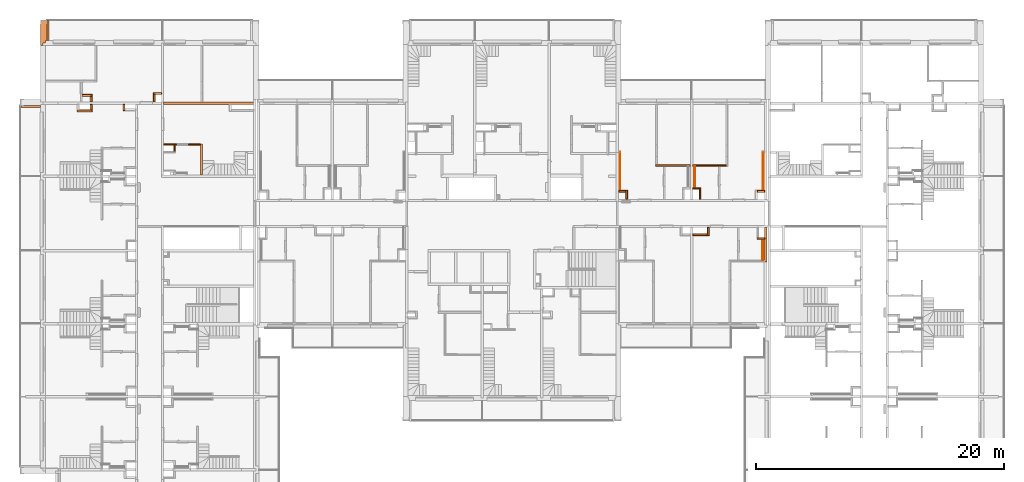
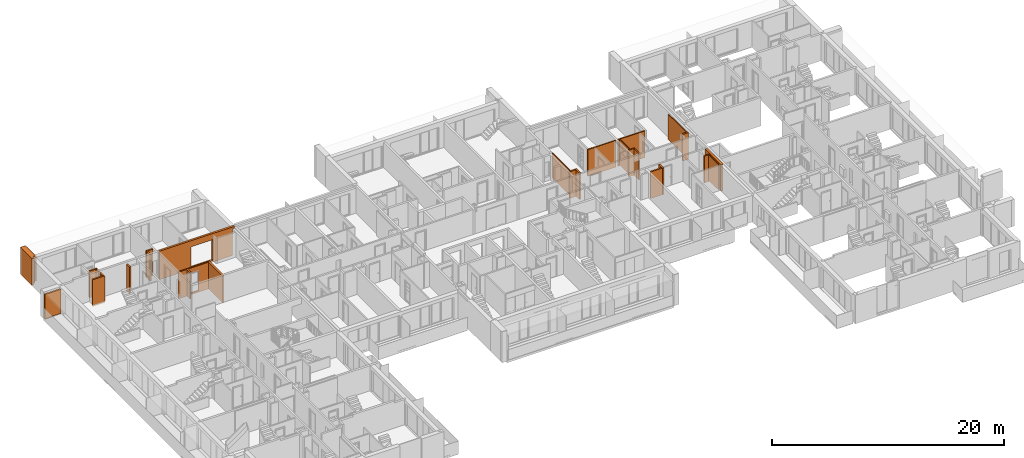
# One storey, part 55 of 61: 29 proxies, 3 openings.
"""IFC2X3 building model written with IfcOpenShell, lengths in millimetres."""

from ifc_helpers import new_model, entity, si_unit, converted_unit, derived_unit, money_unit, direction, frame, origin_with_axes, origin_2d_with_axis, place, context, subcontext, project, spatial, rectangle, extrude, faceted_brep, material, material_list, type_object, element, save


model = new_model("IFC2X3")

# Units and contexts
model_context = context("Model", 3, precision=0.01, world=origin_with_axes(), true_north=direction((0.34421633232, 0.938890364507)))
body_context = subcontext(model_context, "Body", "Model", "MODEL_VIEW")
ifc_project = project(units=[si_unit("LENGTHUNIT", "METRE", prefix="MILLI"), si_unit("AREAUNIT", "SQUARE_METRE"), si_unit("VOLUMEUNIT", "CUBIC_METRE"), converted_unit("PLANEANGLEUNIT", "DEGREE", entity("IfcPlaneAngleMeasure", 0.0174532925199), si_unit("PLANEANGLEUNIT", "RADIAN"), dimensions=[0, 0, 0, 0, 0, 0, 0]), si_unit("SOLIDANGLEUNIT", "STERADIAN"), money_unit("USD"), converted_unit("TIMEUNIT", "Year", entity("IfcTimeMeasure", 31556926.0), si_unit("TIMEUNIT", "SECOND"), dimensions=[0, 0, 1, 0, 0, 0, 0]), si_unit("MASSUNIT", "GRAM", prefix="KILO"), si_unit("THERMODYNAMICTEMPERATUREUNIT", "DEGREE_CELSIUS"), si_unit("LUMINOUSINTENSITYUNIT", "LUMEN"), si_unit("ENERGYUNIT", "JOULE", prefix="MEGA"), derived_unit("THERMALCONDUCTANCEUNIT", [(si_unit("POWERUNIT", "WATT"), 1), (si_unit("LENGTHUNIT", "METRE"), -1), (si_unit("THERMODYNAMICTEMPERATUREUNIT", "KELVIN"), -1)]), derived_unit("SPECIFICHEATCAPACITYUNIT", [(si_unit("ENERGYUNIT", "JOULE"), 1), (si_unit("MASSUNIT", "GRAM", prefix="KILO"), -1), (si_unit("THERMODYNAMICTEMPERATUREUNIT", "KELVIN"), -1)]), derived_unit("MASSDENSITYUNIT", [(si_unit("MASSUNIT", "GRAM", prefix="KILO"), 1), (si_unit("VOLUMEUNIT", "CUBIC_METRE"), -1)])], contexts=[model_context])

# Site, building, storey
site_placement = place(None, origin_with_axes())
site = spatial("IfcSite", under=ifc_project, at=site_placement, Name="USTRONIE MORSKIE", CompositionType="ELEMENT")
building_placement = place(site_placement, origin_with_axes())
building = spatial("IfcBuilding", under=site, at=building_placement, Name="Budynek", CompositionType="ELEMENT")
storey_placement = place(building_placement, frame((0.0, 0.0, 13000.0), z_axis=(0.0, 0.0, 1.0), x_axis=(1.0, 0.0, 0.0)))
storey = spatial("IfcBuildingStorey", under=building, at=storey_placement, Name="PIĘTRO 4", CompositionType="ELEMENT", Elevation=13000.0)

# Proxies
ifc_material_1 = material(Name="Bloczki silikatowe")
building_element_proxy_type_1 = type_object("IfcBuildingElementProxyType", Name="Bloczki silikatowe 120", PredefinedType="NOTDEFINED")
proxy_1_placement = place(storey_placement, frame((402317.920919, 737751.199937, -160.0), z_axis=(0.0, 0.0, 1.0), x_axis=(1.0, 0.0, 0.0)))
element("IfcBuildingElementProxy", 1, at=proxy_1_placement, inside=storey, type_object=building_element_proxy_type_1, material=ifc_material_1, Name="SW-04", context=body_context, shape_type="Brep", body=[
    faceted_brep([(720.0, 120.0, 0.0), (720.0, 0.0, 0.0), (100.0, 0.0, 0.0), (100.0, 120.0, 0.0), (720.0, 120.0, 2800.0), (720.0, 0.0, 2800.0), (100.0, 0.0, 2800.0), (100.0, 120.0, 2800.0)], [[[0, 1, 2, 3]], [[1, 0, 4, 5]], [[1, 5, 6, 2]], [[7, 3, 2, 6]], [[4, 0, 3, 7]], [[5, 4, 7, 6]]]),
])
proxy_2_placement = place(storey_placement, frame((402917.920919, 737751.199937, -160.0), z_axis=(0.0, 0.0, 1.0), x_axis=(0.0, -1.0, 0.0)))
element("IfcBuildingElementProxy", 2, at=proxy_2_placement, inside=storey, type_object=building_element_proxy_type_1, material=ifc_material_1, Name="SW-04", context=body_context, shape_type="Brep", body=[
    faceted_brep([(820.00090117, 120.0, 0.0), (820.00090117, 0.0, 0.0), (0.0, 0.0, 0.0), (0.0, 120.0, 0.0), (820.00090117, 120.0, 2800.0), (820.00090117, 0.0, 2800.0), (0.0, 0.0, 2800.0), (0.0, 120.0, 2800.0)], [[[0, 1, 2, 3]], [[1, 0, 4, 5]], [[1, 5, 6, 2]], [[7, 3, 2, 6]], [[4, 0, 3, 7]], [[5, 4, 7, 6]]]),
])

# Proxy, opening
proxy_3_placement = place(storey_placement, frame((359617.920919, 741361.180377, -160.0), z_axis=(0.0, 0.0, 1.0), x_axis=(1.0, 0.0, 0.0)))
proxy_3 = element("IfcBuildingElementProxy", 3, at=proxy_3_placement, inside=storey, type_object=building_element_proxy_type_1, material=ifc_material_1, Name="SW-04", context=body_context, shape_type="Brep", body=[
    faceted_brep([(3049.9699557, -59.9999999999, 2800.0), (3049.9699557, 59.9999999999, 2800.0), (1020.00179464, 59.9999999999, 2800.0), (1020.00179464, -59.9999999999, 2800.0), (3049.9699557, -59.9999999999, 0.0), (3049.9699557, 59.9999999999, 0.0), (1020.00179464, 59.9999999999, 0.0), (1020.00179464, -59.9999999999, 0.0)], [[[0, 1, 2, 3]], [[1, 0, 4, 5]], [[1, 5, 6, 2]], [[7, 3, 2, 6]], [[4, 0, 3, 7]], [[5, 4, 7, 6]]]),
    faceted_brep([(900.001794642, -59.9999999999, 2800.0), (900.001794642, 59.9999999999, 2800.0), (80.0, 59.9999999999, 2800.0), (80.0, -59.9999999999, 2800.0), (900.001794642, -59.9999999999, 0.0), (900.001794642, 59.9999999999, 0.0), (80.0, 59.9999999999, 0.0), (80.0, -59.9999999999, 0.0)], [[[0, 1, 2, 3]], [[1, 0, 4, 5]], [[1, 5, 6, 2]], [[7, 3, 2, 6]], [[4, 0, 3, 7]], [[5, 4, 7, 6]]]),
])
opening_1_placement = place(proxy_3_placement, frame((1600.00179464, 0.0, 160.0), z_axis=(0.0, 0.0, 1.0), x_axis=(1.0, 0.0, 0.0)))
element("IfcOpeningElement", 4, at=opening_1_placement, cuts=proxy_3, Name="Dw.4", context=body_context, shape_type="SweptSolid", body=[
    extrude(rectangle(XDim=920.0, YDim=2070.0, at=origin_2d_with_axis()), frame((0.0, -120.0, 1035.0), z_axis=(0.0, -1.0, 0.0), x_axis=(-1.0, 0.0, 0.0)), (0.0, 0.0, -1.0), 360.0),
    extrude(rectangle(XDim=994.0, YDim=2177.0, at=origin_2d_with_axis()), frame((0.0, -59.9999999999, 1088.5), z_axis=(0.0, -1.0, 0.0), x_axis=(-1.0, 0.0, 0.0)), (0.0, 0.0, 1.0), 120.0),
    extrude(rectangle(XDim=994.0, YDim=2177.0, at=origin_2d_with_axis()), frame((0.0, 60.0000000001, 1088.5), z_axis=(0.0, 1.0, 0.0), x_axis=(-1.0, 0.0, 0.0)), (0.0, 0.0, 1.0), 120.0),
])

# Proxies
proxy_4_placement = place(storey_placement, frame((408317.920919, 733851.183064, -160.0), z_axis=(0.0, 0.0, 1.0), x_axis=(-0.999999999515, 3.11484020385e-05, 0.0)))
element("IfcBuildingElementProxy", 5, at=proxy_4_placement, inside=storey, type_object=building_element_proxy_type_1, material=ifc_material_1, Name="SW-04", context=body_context, shape_type="Brep", body=[
    faceted_brep([(719.979557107, -1.13686837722e-10, 2800.0), (719.972081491, 120.0, 2800.0), (99.9962622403, 120.0, 2800.0), (100.000000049, -1.13686837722e-10, 2800.0), (719.979557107, -1.13686837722e-10, 0.0), (719.972081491, 120.0, 0.0), (99.9962622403, 120.0, 0.0), (100.000000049, -1.13686837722e-10, 0.0)], [[[0, 1, 2, 3]], [[1, 0, 4, 5]], [[1, 5, 6, 2]], [[7, 3, 2, 6]], [[4, 0, 3, 7]], [[5, 4, 7, 6]]]),
])
proxy_5_placement = place(storey_placement, frame((402317.920919, 739651.199937, -160.0), z_axis=(0.0, 0.0, 1.0), x_axis=(1.0, 0.0, 0.0)))
element("IfcBuildingElementProxy", 6, at=proxy_5_placement, inside=storey, type_object=building_element_proxy_type_1, material=ifc_material_1, Name="SW-04", context=body_context, shape_type="Brep", body=[
    faceted_brep([(2790.00713284, 59.9999999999, 0.0), (2790.00713284, -59.9999999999, 0.0), (100.0, -59.9999999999, 0.0), (100.0, 59.9999999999, 0.0), (2790.00713284, 59.9999999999, 2800.0), (2790.00713284, -59.9999999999, 2800.0), (100.0, -59.9999999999, 2800.0), (100.0, 59.9999999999, 2800.0)], [[[0, 1, 2, 3]], [[1, 0, 4, 5]], [[1, 5, 6, 2]], [[7, 3, 2, 6]], [[4, 0, 3, 7]], [[5, 4, 7, 6]]]),
])
proxy_6_placement = place(storey_placement, frame((399467.913786, 739651.199937, -160.0), z_axis=(0.0, 0.0, 1.0), x_axis=(1.0, 0.0, 0.0)))
element("IfcBuildingElementProxy", 7, at=proxy_6_placement, inside=storey, type_object=building_element_proxy_type_1, material=ifc_material_1, Name="SW-04", context=body_context, shape_type="Brep", body=[
    faceted_brep([(-60.0, -59.9999999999, 2800.0), (2750.00713284, -59.9999999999, 2800.0), (2750.00713284, 59.9999999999, 2800.0), (-60.0, 59.9999999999, 2800.0), (-60.0, -59.9999999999, 0.0), (2750.00713284, -59.9999999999, 0.0), (2750.00713284, 59.9999999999, 0.0), (-60.0, 59.9999999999, 0.0)], [[[0, 1, 2, 3]], [[4, 5, 1, 0]], [[5, 6, 2, 1]], [[3, 2, 6, 7]], [[3, 7, 4, 0]], [[7, 6, 5, 4]]]),
])
proxy_7_placement = place(storey_placement, frame((360577.922714, 741361.180377, -160.0), z_axis=(0.0, 0.0, 1.0), x_axis=(0.0, -1.0, 0.0)))
element("IfcBuildingElementProxy", 8, at=proxy_7_placement, inside=storey, type_object=building_element_proxy_type_1, material=ifc_material_1, Name="SW-04", context=body_context, shape_type="Brep", body=[
    faceted_brep([(560.00090117, 60.0, 0.0), (560.00090117, -60.0, 0.0), (-59.9999999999, -60.0, 0.0), (-59.9999999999, 60.0, 0.0), (560.00090117, 60.0, 2800.0), (560.00090117, -60.0, 2800.0), (-59.9999999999, -60.0, 2800.0), (-59.9999999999, 60.0, 2800.0)], [[[0, 1, 2, 3]], [[1, 0, 4, 5]], [[1, 5, 6, 2]], [[7, 3, 2, 6]], [[4, 0, 3, 7]], [[5, 4, 7, 6]]]),
])
building_element_proxy_type_2 = type_object("IfcBuildingElementProxyType", Name="Bloczki silikatowe 180", PredefinedType="NOTDEFINED")
proxy_8_placement = place(storey_placement, frame((362757.905875, 741361.180377, -160.0), z_axis=(0.0, 0.0, 1.0), x_axis=(0.0, -1.0, 0.0)))
element("IfcBuildingElementProxy", 9, at=proxy_8_placement, inside=storey, type_object=building_element_proxy_type_2, material=ifc_material_1, Name="Œciana-007", context=body_context, shape_type="Brep", body=[
    faceted_brep([(2459.98134114, -90.015, 2800.0), (2459.98134114, 90.015, 2800.0), (-59.9999999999, 90.015, 2800.0), (-59.9999999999, -90.015, 2800.0), (2459.98134114, -90.015, 0.0), (2459.98134114, 90.015, 0.0), (-59.9999999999, 90.015, 0.0), (-59.9999999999, -90.015, 0.0)], [[[0, 1, 2, 3]], [[1, 0, 4, 5]], [[1, 5, 6, 2]], [[7, 3, 2, 6]], [[4, 0, 3, 7]], [[5, 4, 7, 6]]]),
])
ifc_material_2 = material(Name="Płyta GK")
ifc_material_3 = material(Name="-Pustka powietrzna")
ifc_material_list_1 = material_list([ifc_material_2, ifc_material_2, ifc_material_3])
building_element_proxy_type_3 = type_object("IfcBuildingElementProxyType", Name="330-SD GK 2-warstwy 75", PredefinedType="NOTDEFINED")
proxy_9_placement = place(storey_placement, frame((402562.908566, 739651.199937, -180.0), z_axis=(0.0, 0.0, 1.0), x_axis=(0.0, -1.0, 0.0)))
element("IfcBuildingElementProxy", 10, at=proxy_9_placement, inside=storey, type_object=building_element_proxy_type_3, material=ifc_material_list_1, Name="Ściana-009", context=body_context, shape_type="Brep", body=[
    faceted_brep([(1780.0, 50.0, 165.0), (59.9999999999, 50.0, 165.0), (59.9999999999, 50.0, 2820.0), (1780.0, 50.0, 2820.0), (59.9999999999, 37.5, 165.0), (1780.0, 37.5, 165.0), (59.9999999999, 37.5, 2820.0), (1780.0, 37.5, 2820.0)], [[[0, 1, 2, 3]], [[4, 1, 0, 5]], [[1, 4, 6, 2]], [[6, 7, 3, 2]], [[5, 0, 3, 7]], [[4, 5, 7, 6]]]),
    faceted_brep([(1780.0, 37.5, 165.0), (59.9999999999, 37.5, 165.0), (59.9999999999, 37.5, 2820.0), (1780.0, 37.5, 2820.0), (59.9999999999, 25.0, 165.0), (1780.0, 25.0, 165.0), (59.9999999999, 25.0, 2820.0), (1780.0, 25.0, 2820.0)], [[[0, 1, 2, 3]], [[4, 1, 0, 5]], [[1, 4, 6, 2]], [[6, 7, 3, 2]], [[5, 0, 3, 7]], [[4, 5, 7, 6]]]),
    faceted_brep([(1780.0, 25.0, 180.0), (59.9999999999, 25.0, 180.0), (59.9999999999, 25.0, 2820.0), (1780.0, 25.0, 2820.0), (59.9999999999, -25.0, 180.0), (1780.0, -25.0, 180.0), (59.9999999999, -25.0, 2820.0), (1780.0, -25.0, 2820.0)], [[[0, 1, 2, 3]], [[4, 1, 0, 5]], [[1, 4, 6, 2]], [[6, 7, 3, 2]], [[5, 0, 3, 7]], [[4, 5, 7, 6]]]),
])
proxy_10_placement = place(storey_placement, frame((408087.943039, 737501.202288, -180.0), z_axis=(0.0, 0.0, 1.0), x_axis=(0.0, 1.0, 0.0)))
element("IfcBuildingElementProxy", 11, at=proxy_10_placement, inside=storey, type_object=building_element_proxy_type_3, material=ifc_material_list_1, Name="Ściana-009", context=body_context, shape_type="Brep", body=[
    faceted_brep([(150.0, 12.5, 165.0), (3282.5, 12.5, 165.0), (3282.5, 12.5, 2820.0), (150.0, 12.5, 2820.0), (3282.5, 25.0, 165.0), (150.0, 25.0, 165.0), (3282.5, 25.0, 2820.0), (150.0, 25.0, 2820.0)], [[[0, 1, 2, 3]], [[4, 1, 0, 5]], [[1, 4, 6, 2]], [[6, 7, 3, 2]], [[5, 0, 3, 7]], [[4, 5, 7, 6]]]),
    faceted_brep([(150.0, 0.0, 165.0), (3270.0, 0.0, 165.0), (3270.0, 0.0, 2820.0), (150.0, 0.0, 2820.0), (3270.0, 12.5, 165.0), (150.0, 12.5, 165.0), (3270.0, 12.5, 2820.0), (150.0, 12.5, 2820.0)], [[[0, 1, 2, 3]], [[4, 1, 0, 5]], [[1, 4, 6, 2]], [[6, 7, 3, 2]], [[5, 0, 3, 7]], [[4, 5, 7, 6]]]),
    faceted_brep([(150.0, -50.0, 180.0), (3220.0, -50.0, 180.0), (3220.0, -50.0, 2820.0), (150.0, -50.0, 2820.0), (3220.0, 0.0, 180.0), (150.0, 0.0, 180.0), (3220.0, 0.0, 2820.0), (150.0, 0.0, 2820.0)], [[[0, 1, 2, 3]], [[4, 1, 0, 5]], [[1, 4, 6, 2]], [[6, 7, 3, 2]], [[5, 0, 3, 7]], [[4, 5, 7, 6]]]),
])
ifc_material_list_2 = material_list([ifc_material_3, ifc_material_2, ifc_material_2])
proxy_11_placement = place(storey_placement, frame((408072.933272, 733851.191629, -160.0), z_axis=(0.0, 0.0, 1.0), x_axis=(0.0, -1.0, 0.0)))
element("IfcBuildingElementProxy", 12, at=proxy_11_placement, inside=storey, type_object=building_element_proxy_type_3, material=ifc_material_list_2, Name="Ściana-009", context=body_context, shape_type="Brep", body=[
    faceted_brep([(1839.99249676, 25.0, 160.0), (120.00171322, 25.0, 160.0), (120.00171322, 25.0, 2800.0), (1839.99249676, 25.0, 2800.0), (120.0001558, -25.0, 160.0), (1839.99249676, -25.0, 160.0), (120.0001558, -25.0, 2800.0), (1839.99249676, -25.0, 2800.0)], [[[0, 1, 2, 3]], [[4, 1, 0, 5]], [[1, 4, 6, 2]], [[7, 3, 2, 6]], [[5, 0, 3, 7]], [[4, 5, 7, 6]]]),
    faceted_brep([(1839.99249676, -25.0, 145.0), (120.0001558, -25.0, 145.0), (120.0001558, -25.0, 2800.0), (1839.99249676, -25.0, 2800.0), (119.999766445, -37.5, 145.0), (1839.99249676, -37.5, 145.0), (119.999766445, -37.5, 2800.0), (1839.99249676, -37.5, 2800.0)], [[[0, 1, 2, 3]], [[4, 1, 0, 5]], [[1, 4, 6, 2]], [[7, 3, 2, 6]], [[5, 0, 3, 7]], [[4, 5, 7, 6]]]),
    faceted_brep([(1839.99249676, -37.5, 145.0), (119.999766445, -37.5, 145.0), (119.999766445, -37.5, 2800.0), (1839.99249676, -37.5, 2800.0), (119.99937709, -50.0, 145.0), (1839.99249676, -50.0, 145.0), (119.99937709, -50.0, 2800.0), (1839.99249676, -50.0, 2800.0)], [[[0, 1, 2, 3]], [[4, 1, 0, 5]], [[1, 4, 6, 2]], [[7, 3, 2, 6]], [[5, 0, 3, 7]], [[4, 5, 7, 6]]]),
])
proxy_12_placement = place(storey_placement, frame((396547.898799, 737501.202288, -180.0), z_axis=(0.0, 0.0, 1.0), x_axis=(0.0, 1.0, 0.0)))
element("IfcBuildingElementProxy", 13, at=proxy_12_placement, inside=storey, type_object=building_element_proxy_type_3, material=ifc_material_list_2, Name="Ściana-009", context=body_context, shape_type="Brep", body=[
    faceted_brep([(150.0, 0.0, 180.0), (3220.00000001, 0.0, 180.0), (3220.00000001, 0.0, 2820.0), (150.0, 0.0, 2820.0), (3220.00000001, 50.0, 180.0), (150.0, 50.0, 180.0), (3220.00000001, 50.0, 2820.0), (150.0, 50.0, 2820.0)], [[[0, 1, 2, 3]], [[4, 1, 0, 5]], [[1, 4, 6, 2]], [[6, 7, 3, 2]], [[5, 0, 3, 7]], [[4, 5, 7, 6]]]),
    faceted_brep([(150.0, -12.5, 165.0), (3270.00000001, -12.5, 165.0), (3270.00000001, -12.5, 2820.0), (150.0, -12.5, 2820.0), (3270.00000001, 0.0, 165.0), (150.0, 0.0, 165.0), (3270.00000001, 0.0, 2820.0), (150.0, 0.0, 2820.0)], [[[0, 1, 2, 3]], [[4, 1, 0, 5]], [[1, 4, 6, 2]], [[6, 7, 3, 2]], [[5, 0, 3, 7]], [[4, 5, 7, 6]]]),
    faceted_brep([(150.0, -25.0, 165.0), (3282.50000001, -25.0, 165.0), (3282.50000001, -25.0, 2820.0), (150.0, -25.0, 2820.0), (3282.50000001, -12.5, 165.0), (150.0, -12.5, 165.0), (3282.50000001, -12.5, 2820.0), (150.0, -12.5, 2820.0)], [[[0, 1, 2, 3]], [[4, 1, 0, 5]], [[1, 4, 6, 2]], [[6, 7, 3, 2]], [[5, 0, 3, 7]], [[4, 5, 7, 6]]]),
])
building_element_proxy_type_4 = type_object("IfcBuildingElementProxyType", Name="Bloczki silikatowe 150", PredefinedType="NOTDEFINED")
proxy_13_placement = place(storey_placement, frame((397017.924131, 736851.199036, -160.0), z_axis=(0.0, 0.0, 1.0), x_axis=(-3.11484011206e-05, 0.999999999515, 0.0)))
element("IfcBuildingElementProxy", 14, at=proxy_13_placement, inside=storey, type_object=building_element_proxy_type_4, material=ifc_material_1, Name="SW-03", context=body_context, shape_type="Brep", body=[
    faceted_brep([(800.003252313, 0.0, 0.0), (799.998580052, -150.0, 0.0), (79.9953277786, -150.0, 0.0), (80.0000000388, 0.0, 0.0), (800.003252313, 0.0, 2800.0), (799.998580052, -150.0, 2800.0), (79.9953277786, -150.0, 2800.0), (80.0000000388, 0.0, 2800.0)], [[[0, 1, 2, 3]], [[1, 0, 4, 5]], [[1, 5, 6, 2]], [[7, 3, 2, 6]], [[4, 0, 3, 7]], [[5, 4, 7, 6]]]),
])
proxy_14_placement = place(storey_placement, frame((397017.903884, 737501.202288, -160.0), z_axis=(0.0, 0.0, 1.0), x_axis=(-1.0, 0.0, 0.0)))
element("IfcBuildingElementProxy", 15, at=proxy_14_placement, inside=storey, type_object=building_element_proxy_type_4, material=ifc_material_1, Name="SW-03", context=body_context, shape_type="Brep", body=[
    faceted_brep([(599.992567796, 0.0, 0.0), (599.992567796, -150.0, 0.0), (0.00467226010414, -150.0, 0.0), (0.0, 0.0, 0.0), (599.992567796, 0.0, 2800.0), (599.992567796, -150.0, 2800.0), (0.00467226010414, -150.0, 2800.0), (0.0, 0.0, 2800.0)], [[[0, 1, 2, 3]], [[1, 0, 4, 5]], [[1, 5, 6, 2]], [[7, 3, 2, 6]], [[4, 0, 3, 7]], [[5, 4, 7, 6]]]),
])
proxy_15_placement = place(storey_placement, frame((353842.920919, 744091.199036, -160.0), z_axis=(0.0, 0.0, 1.0), x_axis=(0.0, 1.0, 0.0)))
element("IfcBuildingElementProxy", 16, at=proxy_15_placement, inside=storey, type_object=building_element_proxy_type_4, material=ifc_material_1, Name="SW-03", context=body_context, shape_type="Brep", body=[
    faceted_brep([(59.9999999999, -75.0, 0.0), (510.0, -75.0, 0.0), (510.0, -75.0, 2799.99999878), (59.9999999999, -75.0, 2800.0), (59.9999999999, 75.0, 0.0), (510.0, 75.0, 0.0), (510.0, 75.0, 2799.99999875), (59.9999999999, 75.0, 2800.0)], [[[0, 1, 2, 3]], [[4, 5, 1, 0]], [[5, 6, 2, 1]], [[3, 2, 6, 7]], [[0, 3, 7, 4]], [[7, 6, 5, 4]]]),
])
proxy_16_placement = place(storey_placement, frame((356492.920018, 744701.199973, -160.0), z_axis=(0.0, 0.0, 1.0), x_axis=(0.0, -1.0, 0.0)))
element("IfcBuildingElementProxy", 17, at=proxy_16_placement, inside=storey, type_object=building_element_proxy_type_4, material=ifc_material_1, Name="SW-03", context=body_context, shape_type="Brep", body=[
    faceted_brep([(600.000936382, -75.0, 2800.0), (600.000936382, 75.0, 2800.0), (100.000936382, 75.0, 2800.0), (100.000936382, -75.0, 2800.0), (600.000936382, -75.0, 0.0), (600.000936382, 75.0, 0.0), (100.000936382, 75.0, 0.0), (100.000936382, -75.0, 0.0)], [[[0, 1, 2, 3]], [[1, 0, 4, 5]], [[1, 5, 6, 2]], [[7, 3, 2, 6]], [[4, 0, 3, 7]], [[5, 4, 7, 6]]]),
])
proxy_17_placement = place(storey_placement, frame((359617.921834, 745476.199937, -160.0), z_axis=(0.0, 0.0, 1.0), x_axis=(-1.0, 0.0, 0.0)))
element("IfcBuildingElementProxy", 18, at=proxy_17_placement, inside=storey, type_object=building_element_proxy_type_4, material=ifc_material_1, Name="SW-03", context=body_context, shape_type="Brep", body=[
    faceted_brep([(750.000084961, -75.0, 2800.0), (750.000084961, 75.0, 2800.0), (80.0009147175, 75.0, 2800.0), (80.0009147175, -75.0, 2800.0), (750.000084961, -75.0, 0.0), (750.000084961, 75.0, 0.0), (80.0009147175, 75.0, 0.0), (80.0009147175, -75.0, 0.0)], [[[0, 1, 2, 3]], [[1, 0, 4, 5]], [[1, 5, 6, 2]], [[7, 3, 2, 6]], [[4, 0, 3, 7]], [[5, 4, 7, 6]]]),
])
proxy_18_placement = place(storey_placement, frame((358942.921749, 745476.199937, -160.0), z_axis=(0.0, 0.0, 1.0), x_axis=(0.0, -1.0, 0.0)))
element("IfcBuildingElementProxy", 19, at=proxy_18_placement, inside=storey, type_object=building_element_proxy_type_4, material=ifc_material_1, Name="SW-03", context=body_context, shape_type="Brep", body=[
    faceted_brep([(675.00090117, -74.9999999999, 2800.0), (675.00090117, 75.0000000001, 2800.0), (75.0, 75.0, 2800.0), (75.0, -75.0, 2800.0), (675.00090117, -74.9999999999, 0.0), (675.00090117, 75.0000000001, 0.0), (75.0, 75.0, 0.0), (75.0, -75.0, 0.0)], [[[0, 1, 2, 3]], [[1, 0, 4, 5]], [[1, 5, 6, 2]], [[7, 3, 2, 6]], [[4, 0, 3, 7]], [[5, 4, 7, 6]]]),
])
proxy_19_placement = place(storey_placement, frame((403587.872717, 734751.200744, -160.0), z_axis=(0.0, 0.0, 1.0), x_axis=(0.0, -1.0, 0.0)))
element("IfcBuildingElementProxy", 20, at=proxy_19_placement, inside=storey, type_object=building_element_proxy_type_4, material=ifc_material_1, Name="SW-03", context=body_context, shape_type="Brep", body=[
    faceted_brep([(749.998859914, 0.0, 2800.0), (749.998859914, 150.0, 2800.0), (80.0002231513, 150.0, 2800.0), (80.0001766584, 0.0, 2800.0), (749.998859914, 0.0, 0.0), (749.998859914, 150.0, 0.0), (80.0002231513, 150.0, 0.0), (80.0001766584, 0.0, 0.0)], [[[0, 1, 2, 3]], [[1, 0, 4, 5]], [[1, 5, 6, 2]], [[7, 3, 2, 6]], [[4, 0, 3, 7]], [[5, 4, 7, 6]]]),
])
proxy_20_placement = place(storey_placement, frame((352792.920919, 744091.199036, -160.0), z_axis=(0.0, 0.0, 1.0), x_axis=(1.0, 0.0, 0.0)))
element("IfcBuildingElementProxy", 21, at=proxy_20_placement, inside=storey, type_object=building_element_proxy_type_4, material=ifc_material_1, Name="SW-03", context=body_context, shape_type="Brep", body=[
    faceted_brep([(1125.0, -90.0, 2800.0), (1125.0, 59.9999999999, 2800.0), (-75.0, 59.9999999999, 2800.0), (-75.0, -90.0, 2800.0), (1125.0, -90.0, 0.0), (1125.0, 59.9999999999, 0.0), (-75.0, 59.9999999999, 0.0), (-75.0, -90.0, 0.0)], [[[0, 1, 2, 3]], [[1, 0, 4, 5]], [[1, 5, 6, 2]], [[7, 3, 2, 6]], [[4, 0, 3, 7]], [[5, 4, 7, 6]]]),
])
proxy_21_placement = place(storey_placement, frame((407617.937739, 737501.202288, -160.0), z_axis=(0.0, 0.0, 1.0), x_axis=(1.0, 0.0, 0.0)))
element("IfcBuildingElementProxy", 22, at=proxy_21_placement, inside=storey, type_object=building_element_proxy_type_4, material=ifc_material_1, Name="SW-03", context=body_context, shape_type="Brep", body=[
    faceted_brep([(599.983179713, 0.0, 2800.0), (599.983179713, 150.0, 2800.0), (0.0, 150.0, 2800.0), (0.0, 0.0, 2800.0), (599.983179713, 0.0, 0.0), (599.983179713, 150.0, 0.0), (0.0, 150.0, 0.0), (0.0, 0.0, 0.0)], [[[0, 1, 2, 3]], [[1, 0, 4, 5]], [[1, 5, 6, 2]], [[7, 3, 2, 6]], [[4, 0, 3, 7]], [[5, 4, 7, 6]]]),
])
proxy_22_placement = place(storey_placement, frame((403587.872717, 734151.201884, -160.0), z_axis=(0.0, 0.0, 1.0), x_axis=(-1.0, 0.0, 0.0)))
element("IfcBuildingElementProxy", 23, at=proxy_22_placement, inside=storey, type_object=building_element_proxy_type_4, material=ifc_material_1, Name="SW-03", context=body_context, shape_type="Brep", body=[
    faceted_brep([(0.0, 0.0, 0.0), (1169.9517982, 0.0, 0.0), (1169.9517982, 0.0, 2800.0), (0.0, 0.0, 2800.0), (0.0, 150.0, 0.0), (1169.9517982, 150.0, 0.0), (1169.9517982, 150.0, 2800.0), (0.0, 150.0, 2800.0)], [[[0, 1, 2, 3]], [[4, 5, 1, 0]], [[5, 6, 2, 1]], [[3, 2, 6, 7]], [[0, 3, 7, 4]], [[7, 6, 5, 4]]]),
])
proxy_23_placement = place(storey_placement, frame((353842.920919, 745326.199036, -160.0), z_axis=(0.0, 0.0, 1.0), x_axis=(0.0, -1.0, 0.0)))
element("IfcBuildingElementProxy", 24, at=proxy_23_placement, inside=storey, type_object=building_element_proxy_type_4, material=ifc_material_1, Name="Œciana-007", context=body_context, shape_type="Brep", body=[
    faceted_brep([(525.0, -75.0, 2800.0), (525.0, 75.0, 2800.0), (75.0, 75.0, 2800.0), (75.0, -75.0, 2800.0), (525.0, -75.0, 0.0), (525.0, 75.0, 0.0), (75.0, 75.0, 0.0), (75.0, -75.0, 0.0)], [[[0, 1, 2, 3]], [[1, 0, 4, 5]], [[1, 5, 6, 2]], [[7, 3, 2, 6]], [[4, 0, 3, 7]], [[5, 4, 7, 6]]]),
])
proxy_24_placement = place(storey_placement, frame((353042.920919, 745326.199036, -160.0), z_axis=(0.0, 0.0, 1.0), x_axis=(1.0, 0.0, 0.0)))
element("IfcBuildingElementProxy", 25, at=proxy_24_placement, inside=storey, type_object=building_element_proxy_type_4, material=ifc_material_1, Name="Œciana-007", context=body_context, shape_type="Brep", body=[
    faceted_brep([(875.0, -75.0, 2800.0), (875.0, 75.0, 2800.0), (75.0, 75.0, 2800.0), (75.0, -75.0, 2800.0), (875.0, -75.0, 0.0), (875.0, 75.0, 0.0), (75.0, 75.0, 0.0), (75.0, -75.0, 0.0)], [[[0, 1, 2, 3]], [[1, 0, 4, 5]], [[1, 5, 6, 2]], [[7, 3, 2, 6]], [[4, 0, 3, 7]], [[5, 4, 7, 6]]]),
])
ifc_material_4 = material(Name="Beton konstrukcyjny B25")
building_element_proxy_type_5 = type_object("IfcBuildingElementProxyType", Name="Beton konstrukcyjny B25 200", PredefinedType="NOTDEFINED")
proxy_25_placement = place(storey_placement, frame((408317.920919, 731891.199132, -160.0), z_axis=(0.0, 0.0, 1.0), x_axis=(0.0, 1.0, 0.0)))
element("IfcBuildingElementProxy", 26, at=proxy_25_placement, inside=storey, type_object=building_element_proxy_type_5, material=ifc_material_4, Name="SW-01", context=body_context, shape_type="Brep", body=[
    faceted_brep([(2780.00023893, 100.0, 2800.0), (0.0, 100.0, 2800.0), (0.0, -100.0, 2800.0), (2780.00023893, -100.0, 2800.0), (0.0, 100.0, 0.0), (2780.0, 100.0, 0.0), (0.0, -100.0, 0.0), (2779.99993801, -100.0, 0.0)], [[[0, 1, 2, 3]], [[4, 1, 0, 5]], [[6, 2, 1, 4]], [[3, 2, 6, 7]], [[5, 0, 3, 7]], [[6, 4, 5, 7]]]),
])

# Proxy, opening
proxy_26_placement = place(storey_placement, frame((359617.920919, 744701.199036, -160.0), z_axis=(0.0, 0.0, 1.0), x_axis=(1.0, 0.0, 0.0)))
proxy_26 = element("IfcBuildingElementProxy", 27, at=proxy_26_placement, inside=storey, type_object=building_element_proxy_type_5, material=ifc_material_4, Name="SW-01", context=body_context, shape_type="Brep", body=[
    faceted_brep([(7550.0, 100.000000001, 3000.0), (7550.0, -99.9999999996, 3000.0), (7550.0, -99.9999999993, 2800.0), (7550.0, 100.000000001, 2800.0), (80.0, 100.0, 3000.00000008), (80.0, -100.0, 3000.00000008), (7350.0, -99.9999999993, 0.0), (7350.0, -99.9999999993, 2800.0), (80.0, -100.0, 0.0), (7350.0, 100.000000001, 2800.0), (7350.0, 100.000000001, 0.0), (80.0, 100.0, 0.0)], [[[0, 1, 2, 3]], [[4, 5, 1, 0]], [[6, 7, 2, 1, 5, 8]], [[7, 9, 3, 2]], [[4, 0, 3, 9, 10, 11]], [[8, 5, 4, 11]], [[7, 6, 10, 9]], [[8, 11, 10, 6]]]),
])
opening_2_placement = place(proxy_26_placement, frame((4309.99039259, -3.41060513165e-10, 160.0), z_axis=(0.0, 0.0, 1.0), x_axis=(1.0, 0.0, 0.0)))
element("IfcOpeningElement", 28, at=opening_2_placement, cuts=proxy_26, Name="Dw.02", context=body_context, shape_type="SweptSolid", body=[
    extrude(rectangle(XDim=2159.98087555, YDim=2200.0, at=origin_2d_with_axis()), frame((0.0, 100.0, 1100.0), z_axis=(0.0, -1.0, 0.0), x_axis=(1.0, 0.0, 0.0)), (0.0, 0.0, -1.0), 200.0),
    extrude(rectangle(XDim=2159.98087555, YDim=2200.0, at=origin_2d_with_axis()), frame((0.0, 100.0, 1100.0), z_axis=(0.0, 1.0, 0.0), x_axis=(1.0, 0.0, 0.0)), (0.0, 0.0, -1.0), 200.0),
])

ifc_material_5 = material(Name="Tynk zewnętrzny")
ifc_material_6 = material(Name="Wełna ELEW")
ifc_material_list_3 = material_list([ifc_material_5, ifc_material_6, ifc_material_4, ifc_material_6, ifc_material_5])
building_element_proxy_type_6 = type_object("IfcBuildingElementProxyType", Name="BALKON bok 01 520", PredefinedType="NOTDEFINED")
proxy_27_placement = place(storey_placement, frame((350067.920919, 749451.199036, -160.0), z_axis=(0.0, 0.0, 1.0), x_axis=(0.0, 1.0, 0.0)))
proxy_27 = element("IfcBuildingElementProxy", 29, at=proxy_27_placement, inside=storey, type_object=building_element_proxy_type_6, material=ifc_material_list_3, Name="Œciana-006", context=body_context, shape_type="Brep", body=[
    faceted_brep([(-100.0, 300.0, 2800.0), (1949.99981808, 300.0, 2800.0), (1949.99981808, 310.0, 2800.0), (-100.0, 310.0, 2800.0), (-100.0, 300.0, 0.0), (1949.99981808, 300.0, 0.0), (1949.99981808, 310.0, 0.0), (-100.0, 310.0, 0.0)], [[[0, 1, 2, 3]], [[4, 5, 1, 0]], [[2, 1, 5, 6]], [[3, 2, 6, 7]], [[4, 0, 3, 7]], [[7, 6, 5, 4]]]),
    faceted_brep([(-100.0, 100.0, 2800.0), (1949.99981808, 100.0, 2800.0), (1949.99981808, 300.0, 2800.0), (-100.0, 300.0, 2800.0), (-100.0, 100.0, 0.0), (1949.99981808, 100.0, 0.0), (1949.99981808, 300.0, 0.0), (-100.0, 300.0, 0.0)], [[[0, 1, 2, 3]], [[4, 5, 1, 0]], [[2, 1, 5, 6]], [[3, 2, 6, 7]], [[4, 0, 3, 7]], [[7, 6, 5, 4]]]),
    faceted_brep([(1949.99981808, -100.0, 2800.0), (1949.99981808, 100.0, 2800.0), (100.0, 100.0, 2800.0), (100.0, -100.0, 2800.0), (1949.99981808, -100.0, 0.0), (1949.99981808, 100.0, 0.0), (100.0, 100.0, 0.0), (100.0, -100.0, 0.0)], [[[0, 1, 2, 3]], [[0, 4, 5, 1]], [[1, 5, 6, 2]], [[3, 2, 6, 7]], [[4, 0, 3, 7]], [[5, 4, 7, 6]]]),
    faceted_brep([(1949.99981808, -200.0, 2800.0), (1949.99981808, -100.0, 2800.0), (300.0, -100.0, 2800.0), (300.0, -200.0, 2800.0), (1949.99981808, -200.0, 0.0), (1949.99981808, -100.0, 0.0), (300.0, -100.0, 0.0), (300.0, -200.0, 0.0)], [[[0, 1, 2, 3]], [[0, 4, 5, 1]], [[1, 5, 6, 2]], [[3, 2, 6, 7]], [[4, 0, 3, 7]], [[5, 4, 7, 6]]]),
    faceted_brep([(310.0, -210.0, 9.99999623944), (1909.87684909, -210.0, 10.0000009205), (1909.87684909, -210.0, 0.0), (1949.99981808, -210.0, 0.0), (1950.0, -210.0, 2789.99999792), (310.0, -210.0, 2789.99999792), (310.0, -209.867070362, 9.99999623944), (1909.87684774, -209.852438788, 10.0000009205), (1909.87684774, -209.852438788, 0.0), (1899.84616151, -209.852530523, 1.89398381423e-05), (310.0, -209.867070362, -4.89925966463e-06), (310.0, -200.0, 0.0), (1949.99981808, -200.0, 0.0), (1950.0, -200.0, 2789.99999792), (310.0, -200.0, 2789.99999792)], [[[0, 1, 2, 3, 4, 5]], [[1, 0, 6, 7]], [[2, 1, 7, 8]], [[9, 10, 11, 12, 3, 2, 8]], [[12, 13, 4, 3]], [[14, 5, 4, 13]], [[6, 0, 5, 14, 11, 10]], [[6, 10, 9, 8, 7]], [[11, 14, 13, 12]]]),
])
opening_3_placement = place(proxy_27_placement, frame((1949.99981808, 0.0, 0.0), z_axis=(0.0, 0.0, 1.0), x_axis=(1.0, 0.0, 0.0)))
element("IfcOpeningElement", 30, at=opening_3_placement, cuts=proxy_27, Name="ZS1", context=body_context, shape_type="SweptSolid", body=[
    extrude(rectangle(XDim=9.99999999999, YDim=50.0000000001, at=origin_2d_with_axis()), frame((-25.0000000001, 305.0, 0.0), z_axis=(0.0, 0.0, 1.0), x_axis=(0.0, -1.0, 0.0)), (0.0, 0.0, 1.0), 2800.0),
    extrude(rectangle(XDim=9.99999999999, YDim=250.0, at=origin_2d_with_axis()), frame((-175.0, 305.0, 0.0), z_axis=(0.0, 0.0, 1.0), x_axis=(0.0, -1.0, 0.0)), (0.0, 0.0, 1.0), 2800.0),
    extrude(rectangle(XDim=9.99999999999, YDim=50.0, at=origin_2d_with_axis()), frame((-25.0, -205.0, 0.0), z_axis=(0.0, 0.0, 1.0), x_axis=(0.0, -1.0, 0.0)), (0.0, 0.0, 1.0), 2800.0),
    extrude(rectangle(XDim=9.99999999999, YDim=250.0, at=origin_2d_with_axis()), frame((-175.0, -205.0, 0.0), z_axis=(0.0, 0.0, 1.0), x_axis=(0.0, -1.0, 0.0)), (0.0, 0.0, 1.0), 2800.0),
    extrude(rectangle(XDim=500.0, YDim=50.0000000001, at=origin_2d_with_axis()), frame((-25.0000000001, 50.0, 0.0), z_axis=(0.0, 0.0, 1.0), x_axis=(0.0, -1.0, 0.0)), (0.0, 0.0, 1.0), 2800.0),
])

# Proxies
ifc_material_7 = material(Name="Laminat")
building_element_proxy_type_7 = type_object("IfcBuildingElementProxyType", Name="Laminat 150", PredefinedType="NOTDEFINED")
proxy_28_placement = place(storey_placement, frame((350352.787991, 749761.04617, -160.0), z_axis=(0.0, 0.0, 1.0), x_axis=(-9.14543761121e-06, 0.999999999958, 0.0)))
element("IfcBuildingElementProxy", 31, at=proxy_28_placement, inside=storey, type_object=building_element_proxy_type_7, material=ifc_material_7, Name="SW-03", context=body_context, shape_type="Brep", body=[
    faceted_brep([(1589.99981687, 74.9999999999, 2639.99999792), (1589.99971409, 74.9999999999, 9.99999623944), (0.0, 74.9999999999, 9.99999623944), (0.0, 74.9999999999, 2639.99999792), (1547.49980813, 74.9999999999, 14.9999951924), (1572.49971536, 74.9999999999, 14.9999951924), (1572.49971536, 74.9999999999, 109.999995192), (4.99980812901, 74.9999999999, 109.999995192), (4.99980812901, 74.9999999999, 84.9999951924), (1547.49980813, 74.9999999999, 84.9999951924), (1589.99981687, -75.0, 2639.99999792), (1589.99971409, -75.0, 9.99999623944), (0.0, -75.0, 9.99999623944), (0.0, -75.0, 2639.99999792), (1547.49980813, -75.0, 14.9999951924), (1572.49971536, -75.0, 14.9999951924), (1572.49971536, -75.0, 109.999995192), (4.99980812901, -75.0, 109.999995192), (4.99980812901, -75.0, 84.9999951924), (1547.49980813, -75.0, 84.9999951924)], [[[0, 1, 2, 3], [4, 5, 6, 7, 8, 9]], [[10, 11, 1, 0]], [[1, 11, 12, 2]], [[3, 2, 12, 13]], [[0, 3, 13, 10]], [[4, 14, 15, 5]], [[5, 15, 16, 6]], [[6, 16, 17, 7]], [[7, 17, 18, 8]], [[8, 18, 19, 9]], [[9, 19, 14, 4]], [[13, 12, 11, 10], [14, 19, 18, 17, 16, 15]]]),
])
proxy_29_placement = place(storey_placement, frame((349757.920919, 744416.199036, -180.0), z_axis=(0.0, 0.0, 1.0), x_axis=(-1.0, 0.0, 0.0)))
element("IfcBuildingElementProxy", 32, at=proxy_29_placement, inside=storey, type_object=building_element_proxy_type_7, material=ifc_material_7, Name="SW-03", context=body_context, shape_type="Brep", body=[
    faceted_brep([(1590.0, 75.0, 2659.99999792), (1589.99971409, 75.0, 29.9999962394), (0.0, 75.0, 29.9999963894), (0.0, 75.0, 2659.99999792), (1547.49980813, 75.0, 34.9999951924), (1572.49971536, 75.0, 34.9999951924), (1572.49971536, 75.0, 129.999995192), (4.99980812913, 75.0, 129.999995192), (4.99980812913, 75.0, 104.999995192), (1547.49980813, 75.0, 104.999995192), (1590.0, -75.0, 2659.99999792), (1589.99971409, -75.0, 29.9999962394), (0.0, -75.0, 29.9999963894), (0.0, -75.0, 2659.99999792), (1547.49980813, -75.0, 34.9999951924), (1572.49971536, -75.0, 34.9999951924), (1572.49971536, -75.0, 129.999995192), (4.99980812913, -75.0, 129.999995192), (4.99980812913, -75.0, 104.999995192), (1547.49980813, -75.0, 104.999995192)], [[[0, 1, 2, 3], [4, 5, 6, 7, 8, 9]], [[10, 11, 1, 0]], [[1, 11, 12, 2]], [[3, 2, 12, 13]], [[0, 3, 13, 10]], [[4, 14, 15, 5]], [[5, 15, 16, 6]], [[6, 16, 17, 7]], [[7, 17, 18, 8]], [[8, 18, 19, 9]], [[9, 19, 14, 4]], [[13, 12, 11, 10], [14, 19, 18, 17, 16, 15]]]),
])

save(model, "model.ifc")
